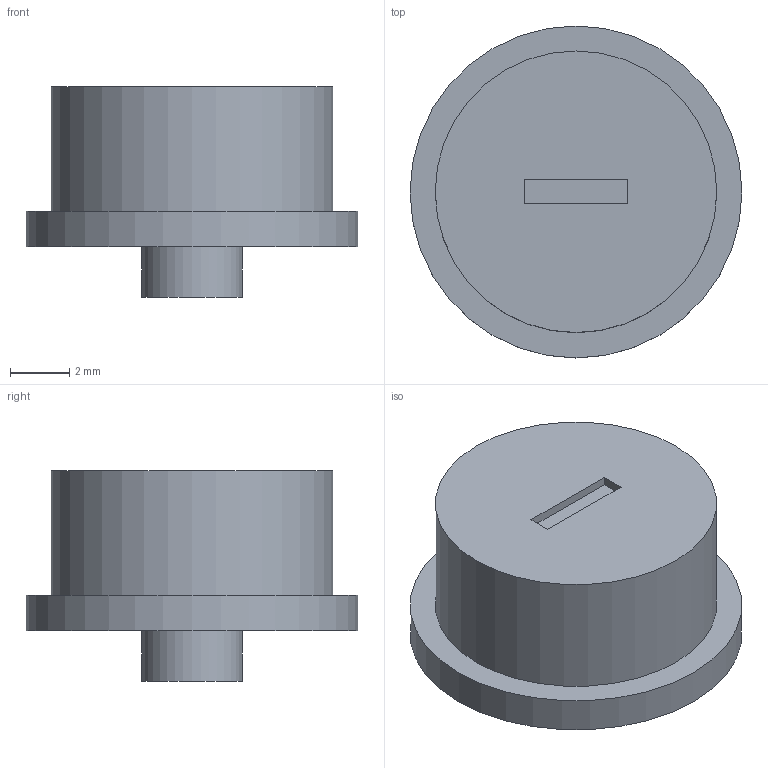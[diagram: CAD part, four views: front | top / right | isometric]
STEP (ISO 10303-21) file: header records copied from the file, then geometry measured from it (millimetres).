
FILE_DESCRIPTION(('Open CASCADE Model'),'2;1');
FILE_NAME('Open CASCADE Shape Model','2026-09-16T15:55:10',('Author'),( 'Open CASCADE'),'Open CASCADE STEP processor 7.9','Open CASCADE 7.9' ,'Unknown');
FILE_SCHEMA(('AUTOMOTIVE_DESIGN { 1 0 10303 214 1 1 1 1 }'));
Length unit declared in the file: millimetre
Products named in the file (1): Open CASCADE STEP translator 7.9 5
Bounding box: 11.2 x 11.2 x 7.1 mm (x, y, z)
Volume: 430.5 mm3; surface area: 385.4 mm2
Topology: 1 solids, 1 shells, 12 faces, 21 edges, 14 vertices
Faces by surface type: plane 9, cylinder 3
Full cylindrical faces by diameter (mm): 3.4 x1, 9.5 x1, 11.2 x1
Entity records: 566 total; most frequent: CARTESIAN_POINT 98, DIRECTION 87, LINE 43, VECTOR 43, ORIENTED_EDGE 42, PCURVE 42, DEFINITIONAL_REPRESENTATION 42, EDGE_CURVE 21
